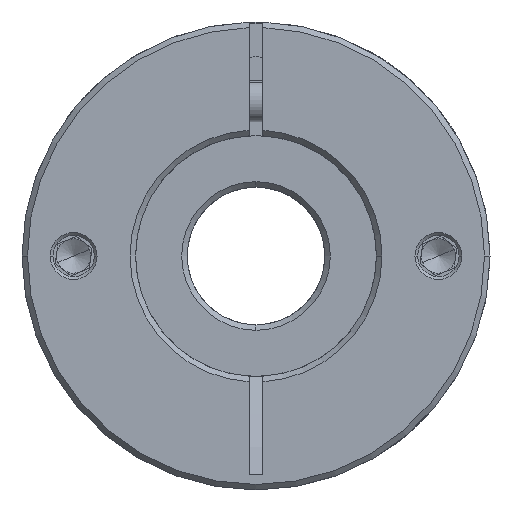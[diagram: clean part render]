
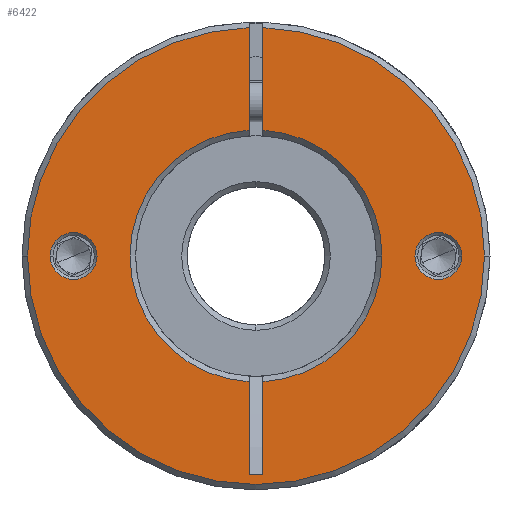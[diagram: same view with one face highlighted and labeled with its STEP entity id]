
A CAD part, front view. The second image highlights one B-rep face of the part: STEP entity #6422.
In plain terms, the highlighted planar face has unit normal (0, -1, 0).
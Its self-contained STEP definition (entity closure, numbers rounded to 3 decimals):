
#134 = VERTEX_POINT ( 'NONE', #8149 ) ;
#261 = ORIENTED_EDGE ( 'NONE', *, *, #8364, .T. ) ;
#461 = LINE ( 'NONE', #10459, #13000 ) ;
#484 = VERTEX_POINT ( 'NONE', #6506 ) ;
#560 = DIRECTION ( 'NONE',  ( 1., 0., 0. ) ) ;
#626 = DIRECTION ( 'NONE',  ( 1., 0., 0. ) ) ;
#678 = LINE ( 'NONE', #7415, #4552 ) ;
#707 = DIRECTION ( 'NONE',  ( 0., -1., 0. ) ) ;
#768 = EDGE_CURVE ( 'NONE', #6245, #134, #678, .T. ) ;
#1358 = VERTEX_POINT ( 'NONE', #9511 ) ;
#1413 = EDGE_LOOP ( 'NONE', ( #7496, #10597, #6540, #4729, #261, #2487, #13372, #13335, #2021, #8106, #3962 ) ) ;
#1531 = EDGE_LOOP ( 'NONE', ( #5110, #12913 ) ) ;
#1627 = LINE ( 'NONE', #10095, #12187 ) ;
#1983 = CARTESIAN_POINT ( 'NONE',  ( -29.235, -47.045, 68. ) ) ;
#2021 = ORIENTED_EDGE ( 'NONE', *, *, #5714, .T. ) ;
#2122 = ORIENTED_EDGE ( 'NONE', *, *, #2743, .T. ) ;
#2257 = CIRCLE ( 'NONE', #8954, 33.2 ) ;
#2376 = DIRECTION ( 'NONE',  ( 0., -1., 0. ) ) ;
#2474 = EDGE_CURVE ( 'NONE', #2479, #13121, #1627, .T. ) ;
#2479 = VERTEX_POINT ( 'NONE', #7816 ) ;
#2487 = ORIENTED_EDGE ( 'NONE', *, *, #8362, .T. ) ;
#2610 = AXIS2_PLACEMENT_3D ( 'NONE', #13049, #6758, #626 ) ;
#2670 = DIRECTION ( 'NONE',  ( 1., 0., 0. ) ) ;
#2743 = EDGE_CURVE ( 'NONE', #9121, #7111, #9389, .T. ) ;
#2981 = DIRECTION ( 'NONE',  ( 1., 0., 0. ) ) ;
#3383 = DIRECTION ( 'NONE',  ( 1., 0., 0. ) ) ;
#3389 = CARTESIAN_POINT ( 'NONE',  ( 15.565, -47.045, 68. ) ) ;
#3458 = EDGE_CURVE ( 'NONE', #484, #8923, #2257, .T. ) ;
#3962 = ORIENTED_EDGE ( 'NONE', *, *, #10151, .T. ) ;
#4061 = AXIS2_PLACEMENT_3D ( 'NONE', #1983, #6165, #10315 ) ;
#4125 = CARTESIAN_POINT ( 'NONE',  ( -2.735, -47.045, 68. ) ) ;
#4154 = DIRECTION ( 'NONE',  ( 0., 0., -1. ) ) ;
#4323 = AXIS2_PLACEMENT_3D ( 'NONE', #12042, #8804, #5843 ) ;
#4447 = DIRECTION ( 'NONE',  ( -1., 0., 0. ) ) ;
#4552 = VECTOR ( 'NONE', #4154, 1000. ) ;
#4682 = CIRCLE ( 'NONE', #12151, 3.4 ) ;
#4729 = ORIENTED_EDGE ( 'NONE', *, *, #3458, .T. ) ;
#4770 = DIRECTION ( 'NONE',  ( 0., 0., -1. ) ) ;
#4911 = EDGE_CURVE ( 'NONE', #9473, #484, #6332, .T. ) ;
#5024 = CARTESIAN_POINT ( 'NONE',  ( 23.765, -47.045, 68. ) ) ;
#5040 = AXIS2_PLACEMENT_3D ( 'NONE', #9384, #7283, #8386 ) ;
#5110 = ORIENTED_EDGE ( 'NONE', *, *, #10778, .T. ) ;
#5524 = VECTOR ( 'NONE', #5793, 1000. ) ;
#5603 = VERTEX_POINT ( 'NONE', #8446 ) ;
#5714 = EDGE_CURVE ( 'NONE', #13121, #134, #461, .T. ) ;
#5793 = DIRECTION ( 'NONE',  ( 0., 0., -1. ) ) ;
#5797 = DIRECTION ( 'NONE',  ( 0., -1., 0. ) ) ;
#5802 = CARTESIAN_POINT ( 'NONE',  ( -2.735, -47.045, 68. ) ) ;
#5843 = DIRECTION ( 'NONE',  ( 1., 0., 0. ) ) ;
#5925 = CARTESIAN_POINT ( 'NONE',  ( 20.365, -47.045, 68. ) ) ;
#5945 = ORIENTED_EDGE ( 'NONE', *, *, #7958, .T. ) ;
#5963 = CARTESIAN_POINT ( 'NONE',  ( -3.735, -47.045, 101.185 ) ) ;
#6061 = EDGE_CURVE ( 'NONE', #7867, #12693, #13029, .T. ) ;
#6165 = DIRECTION ( 'NONE',  ( 0., 1., 0. ) ) ;
#6245 = VERTEX_POINT ( 'NONE', #12538 ) ;
#6276 = AXIS2_PLACEMENT_3D ( 'NONE', #9653, #2376, #3383 ) ;
#6279 = CARTESIAN_POINT ( 'NONE',  ( -1.735, -47.045, 101.185 ) ) ;
#6332 = CIRCLE ( 'NONE', #9942, 33.2 ) ;
#6422 = ADVANCED_FACE ( 'NONE', ( #8588, #9232, #9058 ), #7466, .T. ) ;
#6440 = CARTESIAN_POINT ( 'NONE',  ( 27.165, -47.045, 68. ) ) ;
#6453 = CARTESIAN_POINT ( 'NONE',  ( -1.735, -47.045, 36.279 ) ) ;
#6473 = AXIS2_PLACEMENT_3D ( 'NONE', #9115, #7056, #2981 ) ;
#6506 = CARTESIAN_POINT ( 'NONE',  ( 30.465, -47.045, 68. ) ) ;
#6540 = ORIENTED_EDGE ( 'NONE', *, *, #4911, .T. ) ;
#6758 = DIRECTION ( 'NONE',  ( 0., 1., 0. ) ) ;
#6788 = CARTESIAN_POINT ( 'NONE',  ( -2.735, -47.045, 68. ) ) ;
#6876 = CARTESIAN_POINT ( 'NONE',  ( -2.735, -47.045, 68. ) ) ;
#7056 = DIRECTION ( 'NONE',  ( 0., 1., 0. ) ) ;
#7111 = VERTEX_POINT ( 'NONE', #5925 ) ;
#7222 = CIRCLE ( 'NONE', #11385, 33.2 ) ;
#7283 = DIRECTION ( 'NONE',  ( 0., 1., 0. ) ) ;
#7415 = CARTESIAN_POINT ( 'NONE',  ( -3.735, -47.045, 68. ) ) ;
#7466 = PLANE ( 'NONE',  #6276 ) ;
#7496 = ORIENTED_EDGE ( 'NONE', *, *, #6061, .F. ) ;
#7745 = VERTEX_POINT ( 'NONE', #8794 ) ;
#7815 = DIRECTION ( 'NONE',  ( 0., -1., 0. ) ) ;
#7816 = CARTESIAN_POINT ( 'NONE',  ( -1.735, -47.045, 49.727 ) ) ;
#7867 = VERTEX_POINT ( 'NONE', #5963 ) ;
#7958 = EDGE_CURVE ( 'NONE', #7111, #9121, #4682, .T. ) ;
#8106 = ORIENTED_EDGE ( 'NONE', *, *, #768, .F. ) ;
#8149 = CARTESIAN_POINT ( 'NONE',  ( -3.735, -47.045, 36.279 ) ) ;
#8362 = EDGE_CURVE ( 'NONE', #7745, #12861, #8737, .T. ) ;
#8364 = EDGE_CURVE ( 'NONE', #8923, #7745, #9397, .T. ) ;
#8386 = DIRECTION ( 'NONE',  ( 1., 0., 0. ) ) ;
#8446 = CARTESIAN_POINT ( 'NONE',  ( -25.835, -47.045, 68. ) ) ;
#8588 = FACE_BOUND ( 'NONE', #12222, .T. ) ;
#8681 = CIRCLE ( 'NONE', #4061, 3.4 ) ;
#8737 = CIRCLE ( 'NONE', #2610, 18.3 ) ;
#8794 = CARTESIAN_POINT ( 'NONE',  ( -1.735, -47.045, 86.273 ) ) ;
#8804 = DIRECTION ( 'NONE',  ( 0., 1., 0. ) ) ;
#8923 = VERTEX_POINT ( 'NONE', #6279 ) ;
#8954 = AXIS2_PLACEMENT_3D ( 'NONE', #6876, #707, #9907 ) ;
#9058 = FACE_OUTER_BOUND ( 'NONE', #1413, .T. ) ;
#9115 = CARTESIAN_POINT ( 'NONE',  ( -2.735, -47.045, 68. ) ) ;
#9121 = VERTEX_POINT ( 'NONE', #6440 ) ;
#9186 = DIRECTION ( 'NONE',  ( 1., 0., 0. ) ) ;
#9232 = FACE_BOUND ( 'NONE', #1531, .T. ) ;
#9321 = CIRCLE ( 'NONE', #4323, 3.4 ) ;
#9384 = CARTESIAN_POINT ( 'NONE',  ( 23.765, -47.045, 68. ) ) ;
#9389 = CIRCLE ( 'NONE', #5040, 3.4 ) ;
#9397 = LINE ( 'NONE', #12015, #13005 ) ;
#9473 = VERTEX_POINT ( 'NONE', #12516 ) ;
#9511 = CARTESIAN_POINT ( 'NONE',  ( -32.635, -47.045, 68. ) ) ;
#9653 = CARTESIAN_POINT ( 'NONE',  ( -2.735, -47.045, 68. ) ) ;
#9670 = CIRCLE ( 'NONE', #6473, 18.3 ) ;
#9758 = EDGE_CURVE ( 'NONE', #7867, #9473, #7222, .T. ) ;
#9886 = EDGE_CURVE ( 'NONE', #12861, #2479, #9670, .T. ) ;
#9907 = DIRECTION ( 'NONE',  ( 1., 0., 0. ) ) ;
#9942 = AXIS2_PLACEMENT_3D ( 'NONE', #6788, #5797, #560 ) ;
#10095 = CARTESIAN_POINT ( 'NONE',  ( -1.735, -47.045, 68. ) ) ;
#10151 = EDGE_CURVE ( 'NONE', #6245, #12693, #11126, .T. ) ;
#10174 = DIRECTION ( 'NONE',  ( 0., 1., 0. ) ) ;
#10286 = DIRECTION ( 'NONE',  ( 1., 0., 0. ) ) ;
#10315 = DIRECTION ( 'NONE',  ( 1., 0., 0. ) ) ;
#10459 = CARTESIAN_POINT ( 'NONE',  ( -3.735, -47.045, 36.279 ) ) ;
#10542 = EDGE_CURVE ( 'NONE', #1358, #5603, #9321, .T. ) ;
#10597 = ORIENTED_EDGE ( 'NONE', *, *, #9758, .T. ) ;
#10778 = EDGE_CURVE ( 'NONE', #5603, #1358, #8681, .T. ) ;
#10820 = CARTESIAN_POINT ( 'NONE',  ( -3.735, -47.045, 86.273 ) ) ;
#11126 = CIRCLE ( 'NONE', #13309, 18.3 ) ;
#11385 = AXIS2_PLACEMENT_3D ( 'NONE', #5802, #7815, #2670 ) ;
#12015 = CARTESIAN_POINT ( 'NONE',  ( -1.735, -47.045, 68. ) ) ;
#12034 = CARTESIAN_POINT ( 'NONE',  ( -3.735, -47.045, 68. ) ) ;
#12042 = CARTESIAN_POINT ( 'NONE',  ( -29.235, -47.045, 68. ) ) ;
#12151 = AXIS2_PLACEMENT_3D ( 'NONE', #5024, #10174, #9186 ) ;
#12187 = VECTOR ( 'NONE', #13120, 1000. ) ;
#12222 = EDGE_LOOP ( 'NONE', ( #2122, #5945 ) ) ;
#12466 = DIRECTION ( 'NONE',  ( 0., 1., 0. ) ) ;
#12516 = CARTESIAN_POINT ( 'NONE',  ( -35.935, -47.045, 68. ) ) ;
#12538 = CARTESIAN_POINT ( 'NONE',  ( -3.735, -47.045, 49.727 ) ) ;
#12693 = VERTEX_POINT ( 'NONE', #10820 ) ;
#12861 = VERTEX_POINT ( 'NONE', #3389 ) ;
#12913 = ORIENTED_EDGE ( 'NONE', *, *, #10542, .T. ) ;
#13000 = VECTOR ( 'NONE', #4447, 1000. ) ;
#13005 = VECTOR ( 'NONE', #4770, 1000. ) ;
#13029 = LINE ( 'NONE', #12034, #5524 ) ;
#13049 = CARTESIAN_POINT ( 'NONE',  ( -2.735, -47.045, 68. ) ) ;
#13120 = DIRECTION ( 'NONE',  ( 0., 0., -1. ) ) ;
#13121 = VERTEX_POINT ( 'NONE', #6453 ) ;
#13309 = AXIS2_PLACEMENT_3D ( 'NONE', #4125, #12466, #10286 ) ;
#13335 = ORIENTED_EDGE ( 'NONE', *, *, #2474, .T. ) ;
#13372 = ORIENTED_EDGE ( 'NONE', *, *, #9886, .T. ) ;
